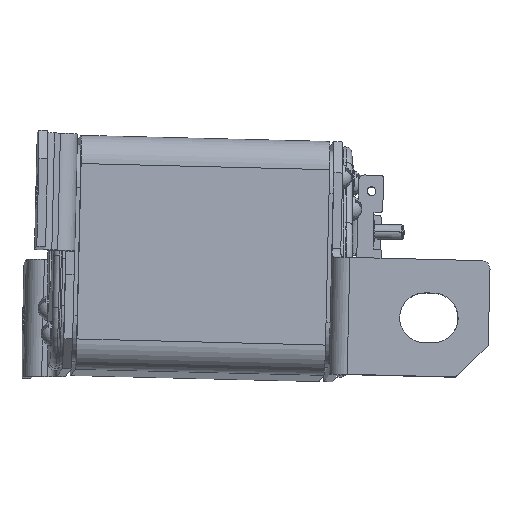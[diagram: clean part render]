
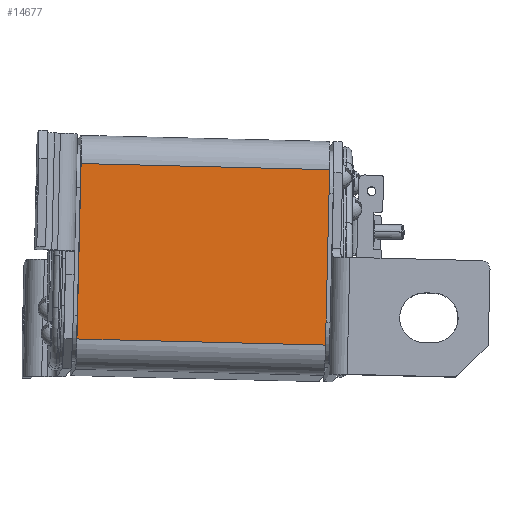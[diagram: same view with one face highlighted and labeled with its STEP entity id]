
A CAD part, front view. The second image highlights one B-rep face of the part: STEP entity #14677.
In plain terms, the highlighted planar face has unit normal (0.028, -0.999, 0.036) as drawn and (-1, 0, 0) by its records, which use the part's own axes.
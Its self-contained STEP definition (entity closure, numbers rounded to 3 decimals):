
#664 = DIRECTION ( 'NONE',  ( 0., 0., 1. ) ) ;
#807 = DIRECTION ( 'NONE',  ( 0., -1., 0. ) ) ;
#2136 = CARTESIAN_POINT ( 'NONE',  ( -40., 42.5, -30. ) ) ;
#3367 = VECTOR ( 'NONE', #8300, 1000. ) ;
#3416 = CARTESIAN_POINT ( 'NONE',  ( -40., -42.5, 30. ) ) ;
#4429 = CARTESIAN_POINT ( 'NONE',  ( -40., -42.5, -30. ) ) ;
#4742 = LINE ( 'NONE', #2136, #22618 ) ;
#5205 = EDGE_CURVE ( 'NONE', #23308, #14922, #12629, .T. ) ;
#6031 = EDGE_CURVE ( 'NONE', #20993, #14922, #6301, .T. ) ;
#6153 = VERTEX_POINT ( 'NONE', #10189 ) ;
#6301 = LINE ( 'NONE', #4429, #20430 ) ;
#6348 = CARTESIAN_POINT ( 'NONE',  ( -40., 42.5, -30. ) ) ;
#6499 = PLANE ( 'NONE',  #8198 ) ;
#8198 = AXIS2_PLACEMENT_3D ( 'NONE', #12319, #23225, #15824 ) ;
#8300 = DIRECTION ( 'NONE',  ( 0., 0., 1. ) ) ;
#10189 = CARTESIAN_POINT ( 'NONE',  ( -40., 42.5, -30. ) ) ;
#10541 = EDGE_LOOP ( 'NONE', ( #18256, #17217, #12009, #22173 ) ) ;
#11885 = EDGE_CURVE ( 'NONE', #6153, #23308, #15284, .T. ) ;
#12009 = ORIENTED_EDGE ( 'NONE', *, *, #11885, .F. ) ;
#12319 = CARTESIAN_POINT ( 'NONE',  ( -40., 42.5, -30. ) ) ;
#12629 = LINE ( 'NONE', #13582, #18128 ) ;
#13582 = CARTESIAN_POINT ( 'NONE',  ( -40., 42.5, 30. ) ) ;
#14677 = ADVANCED_FACE ( 'NONE', ( #16058 ), #6499, .F. ) ;
#14922 = VERTEX_POINT ( 'NONE', #3416 ) ;
#15284 = LINE ( 'NONE', #6348, #3367 ) ;
#15824 = DIRECTION ( 'NONE',  ( 0., 0., -1. ) ) ;
#16058 = FACE_OUTER_BOUND ( 'NONE', #10541, .T. ) ;
#17217 = ORIENTED_EDGE ( 'NONE', *, *, #5205, .F. ) ;
#18128 = VECTOR ( 'NONE', #807, 1000. ) ;
#18214 = CARTESIAN_POINT ( 'NONE',  ( -40., -42.5, -30. ) ) ;
#18256 = ORIENTED_EDGE ( 'NONE', *, *, #6031, .T. ) ;
#18755 = DIRECTION ( 'NONE',  ( 0., -1., 0. ) ) ;
#20430 = VECTOR ( 'NONE', #664, 1000. ) ;
#20993 = VERTEX_POINT ( 'NONE', #18214 ) ;
#21041 = CARTESIAN_POINT ( 'NONE',  ( -40., 42.5, 30. ) ) ;
#21301 = EDGE_CURVE ( 'NONE', #6153, #20993, #4742, .T. ) ;
#22173 = ORIENTED_EDGE ( 'NONE', *, *, #21301, .T. ) ;
#22618 = VECTOR ( 'NONE', #18755, 1000. ) ;
#23225 = DIRECTION ( 'NONE',  ( 1., 0., 0. ) ) ;
#23308 = VERTEX_POINT ( 'NONE', #21041 ) ;
